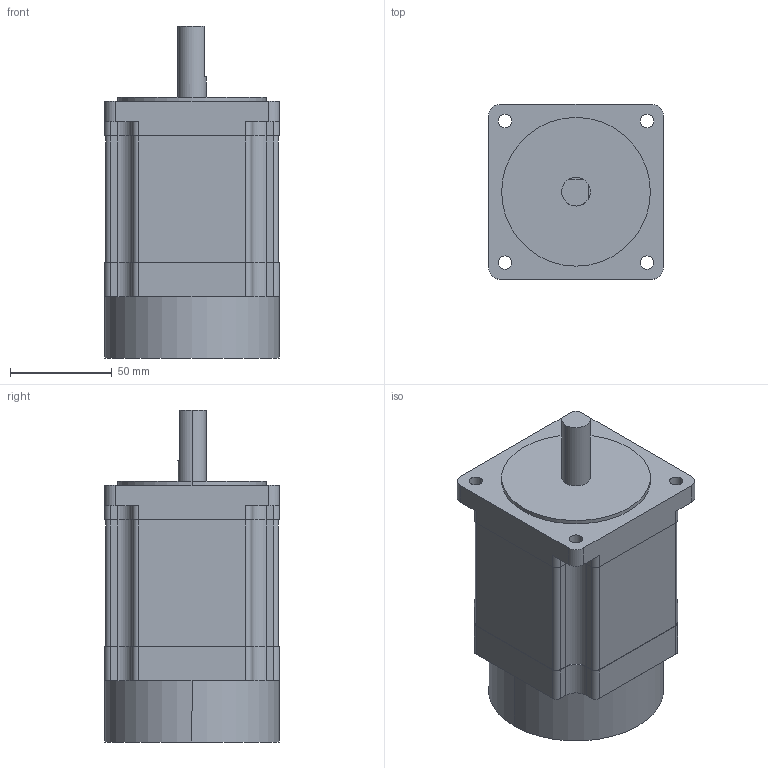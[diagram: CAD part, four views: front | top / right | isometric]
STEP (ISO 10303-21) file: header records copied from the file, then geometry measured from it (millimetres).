
FILE_DESCRIPTION (( 'STEP AP214' ), '1' );
FILE_NAME ('EXMK299-02M.STEP', '2016-09-09T06:20:14', ( 'hoho' ), ( '' ), 'SwSTEP 2.0', 'SolidWorks 2013', '' );
FILE_SCHEMA (( 'AUTOMOTIVE_DESIGN' ));
Length unit declared in the file: millimetre
Products named in the file (1): EXMK299-02M
Bounding box: 85.8 x 85.8 x 163 mm (x, y, z)
Volume: 821760 mm3; surface area: 56351.4 mm2
Topology: 1 solids, 1 shells, 108 faces, 300 edges, 198 vertices
Faces by surface type: cylinder 54, plane 54
Entity records: 3826 total; most frequent: DIRECTION 632, CARTESIAN_POINT 607, ORIENTED_EDGE 600, EDGE_CURVE 300, AXIS2_PLACEMENT_3D 223, VERTEX_POINT 198, LINE 186, VECTOR 186
